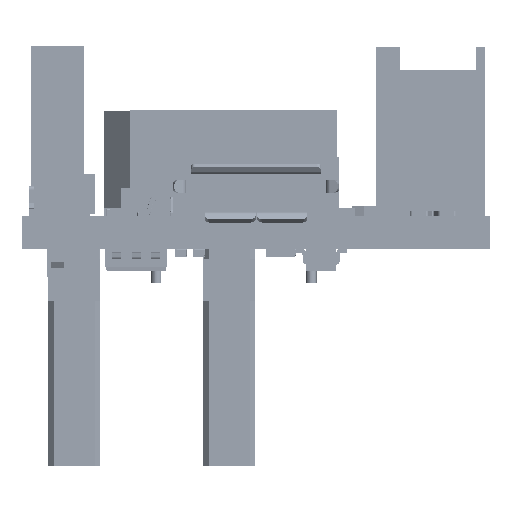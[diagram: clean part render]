
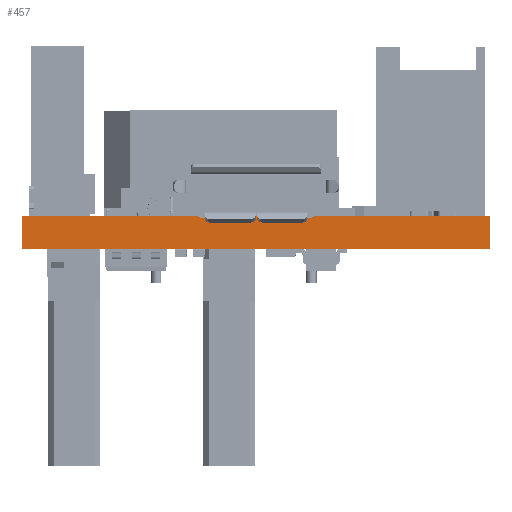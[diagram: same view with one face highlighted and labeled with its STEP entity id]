
A CAD part, left-side view. The second image highlights one B-rep face of the part: STEP entity #457.
In plain terms, the highlighted planar face has unit normal (-1, 0, 0).
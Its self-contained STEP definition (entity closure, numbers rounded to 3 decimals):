
#297 = EDGE_CURVE('',#298,#300,#302,.T.);
#298 = VERTEX_POINT('',#299);
#299 = CARTESIAN_POINT('',(0.,0.,0.));
#300 = VERTEX_POINT('',#301);
#301 = CARTESIAN_POINT('',(0.,0.,1.6));
#302 = LINE('',#303,#304);
#303 = CARTESIAN_POINT('',(0.,0.,0.));
#304 = VECTOR('',#305,1.);
#305 = DIRECTION('',(0.,0.,1.));
#432 = VERTEX_POINT('',#433);
#433 = CARTESIAN_POINT('',(0.,23.,1.6));
#439 = EDGE_CURVE('',#440,#432,#442,.T.);
#440 = VERTEX_POINT('',#441);
#441 = CARTESIAN_POINT('',(0.,23.,0.));
#442 = LINE('',#443,#444);
#443 = CARTESIAN_POINT('',(0.,23.,0.));
#444 = VECTOR('',#445,1.);
#445 = DIRECTION('',(0.,0.,1.));
#457 = ADVANCED_FACE('',(#458),#474,.F.);
#458 = FACE_BOUND('',#459,.F.);
#459 = EDGE_LOOP('',(#460,#461,#467,#468));
#460 = ORIENTED_EDGE('',*,*,#439,.T.);
#461 = ORIENTED_EDGE('',*,*,#462,.T.);
#462 = EDGE_CURVE('',#432,#300,#463,.T.);
#463 = LINE('',#464,#465);
#464 = CARTESIAN_POINT('',(0.,23.,1.6));
#465 = VECTOR('',#466,1.);
#466 = DIRECTION('',(0.,-1.,0.));
#467 = ORIENTED_EDGE('',*,*,#297,.F.);
#468 = ORIENTED_EDGE('',*,*,#469,.F.);
#469 = EDGE_CURVE('',#440,#298,#470,.T.);
#470 = LINE('',#471,#472);
#471 = CARTESIAN_POINT('',(0.,23.,0.));
#472 = VECTOR('',#473,1.);
#473 = DIRECTION('',(0.,-1.,0.));
#474 = PLANE('',#475);
#475 = AXIS2_PLACEMENT_3D('',#476,#477,#478);
#476 = CARTESIAN_POINT('',(0.,23.,0.));
#477 = DIRECTION('',(1.,0.,0.));
#478 = DIRECTION('',(0.,-1.,0.));
